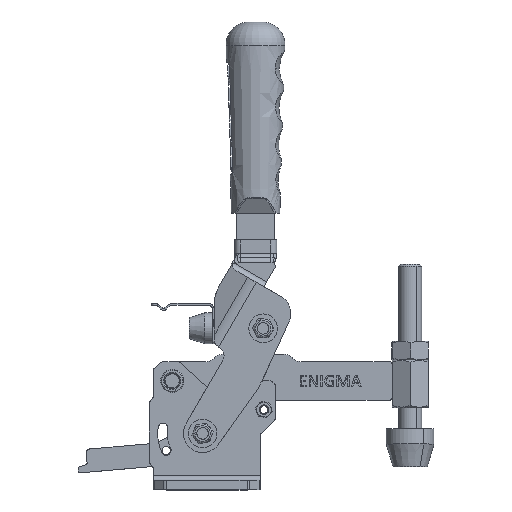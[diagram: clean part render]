
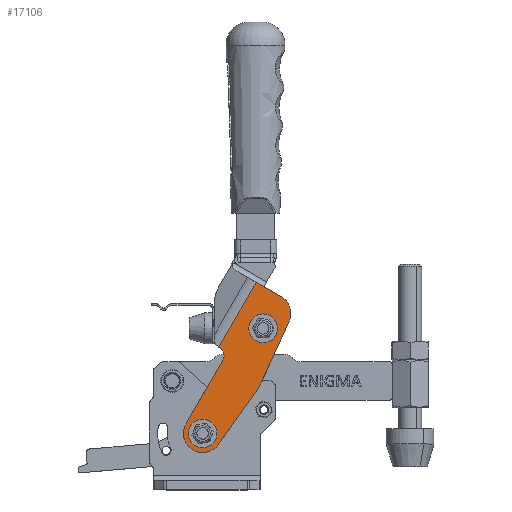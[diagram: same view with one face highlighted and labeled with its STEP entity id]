
A CAD part, top view. The second image highlights one B-rep face of the part: STEP entity #17106.
In plain terms, the highlighted planar face has unit normal (0, 0, 1) as drawn and (0, 0, -1) by its records, which use the part's own axes.
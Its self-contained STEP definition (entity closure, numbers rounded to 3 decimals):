
#206 = VERTEX_POINT ( 'NONE', #37754 ) ;
#1126 = FACE_BOUND ( 'NONE', #26345, .T. ) ;
#2273 = CIRCLE ( 'NONE', #28304, 10. ) ;
#4088 = CIRCLE ( 'NONE', #14470, 40. ) ;
#4246 = LINE ( 'NONE', #43302, #4343 ) ;
#4343 = VECTOR ( 'NONE', #32820, 1000. ) ;
#4828 = CARTESIAN_POINT ( 'NONE',  ( 10., 38.5, -17. ) ) ;
#6219 = DIRECTION ( 'NONE',  ( 1., 0., 0. ) ) ;
#7342 = EDGE_CURVE ( 'NONE', #15074, #24245, #27229, .T. ) ;
#7623 = FACE_OUTER_BOUND ( 'NONE', #27318, .T. ) ;
#7691 = VERTEX_POINT ( 'NONE', #38233 ) ;
#8193 = CARTESIAN_POINT ( 'NONE',  ( 10., 0., -17. ) ) ;
#8367 = EDGE_LOOP ( 'NONE', ( #18009, #38241 ) ) ;
#9907 = DIRECTION ( 'NONE',  ( 1., 0., 0. ) ) ;
#9921 = DIRECTION ( 'NONE',  ( 0., 0., 1. ) ) ;
#9976 = VERTEX_POINT ( 'NONE', #8193 ) ;
#10436 = CIRCLE ( 'NONE', #33480, 7.5 ) ;
#10504 = AXIS2_PLACEMENT_3D ( 'NONE', #32511, #21806, #11549 ) ;
#10878 = FACE_BOUND ( 'NONE', #8367, .T. ) ;
#11001 = EDGE_CURVE ( 'NONE', #33330, #21533, #28861, .T. ) ;
#11008 = ORIENTED_EDGE ( 'NONE', *, *, #16267, .F. ) ;
#11195 = VERTEX_POINT ( 'NONE', #43732 ) ;
#11549 = DIRECTION ( 'NONE',  ( 1., 0., 0. ) ) ;
#11808 = VERTEX_POINT ( 'NONE', #22845 ) ;
#11876 = ORIENTED_EDGE ( 'NONE', *, *, #32644, .F. ) ;
#12310 = DIRECTION ( 'NONE',  ( 1., 0., 0. ) ) ;
#13270 = DIRECTION ( 'NONE',  ( 1., 0., 0. ) ) ;
#13379 = DIRECTION ( 'NONE',  ( 1., 0., 0. ) ) ;
#14209 = EDGE_CURVE ( 'NONE', #7691, #11195, #10436, .T. ) ;
#14396 = EDGE_CURVE ( 'NONE', #21533, #33330, #32033, .T. ) ;
#14453 = LINE ( 'NONE', #35879, #22835 ) ;
#14470 = AXIS2_PLACEMENT_3D ( 'NONE', #19910, #9921, #6219 ) ;
#14661 = CIRCLE ( 'NONE', #30251, 5. ) ;
#15074 = VERTEX_POINT ( 'NONE', #43503 ) ;
#15237 = VECTOR ( 'NONE', #23711, 1000. ) ;
#15523 = VERTEX_POINT ( 'NONE', #32566 ) ;
#15735 = DIRECTION ( 'NONE',  ( 0.095, -0.995, 0. ) ) ;
#16026 = LINE ( 'NONE', #36759, #35274 ) ;
#16162 = VERTEX_POINT ( 'NONE', #4828 ) ;
#16267 = EDGE_CURVE ( 'NONE', #20295, #15523, #2273, .T. ) ;
#16855 = DIRECTION ( 'NONE',  ( 0., 0., 1. ) ) ;
#16870 = VECTOR ( 'NONE', #15735, 1000. ) ;
#17106 = ADVANCED_FACE ( 'NONE', ( #1126, #7623, #10878 ), #25111, .F. ) ;
#17324 = CARTESIAN_POINT ( 'NONE',  ( 0., 63.5, -17. ) ) ;
#17711 = CARTESIAN_POINT ( 'NONE',  ( 7.5, 0., -17. ) ) ;
#18009 = ORIENTED_EDGE ( 'NONE', *, *, #11001, .T. ) ;
#18226 = VERTEX_POINT ( 'NONE', #22826 ) ;
#18586 = ORIENTED_EDGE ( 'NONE', *, *, #45049, .T. ) ;
#19910 = CARTESIAN_POINT ( 'NONE',  ( 26.681, 36.25, -17. ) ) ;
#20295 = VERTEX_POINT ( 'NONE', #30097 ) ;
#20599 = DIRECTION ( 'NONE',  ( 0., 0., 1. ) ) ;
#21533 = VERTEX_POINT ( 'NONE', #17711 ) ;
#21806 = DIRECTION ( 'NONE',  ( 0., 0., 1. ) ) ;
#22307 = CARTESIAN_POINT ( 'NONE',  ( 15.179, 43.5, -17. ) ) ;
#22813 = DIRECTION ( 'NONE',  ( 1., 0., 0. ) ) ;
#22826 = CARTESIAN_POINT ( 'NONE',  ( -9.955, -0.949, -17. ) ) ;
#22835 = VECTOR ( 'NONE', #39590, 1000. ) ;
#22845 = CARTESIAN_POINT ( 'NONE',  ( 15., 43.5, -17. ) ) ;
#23711 = DIRECTION ( 'NONE',  ( 0., -1., 0. ) ) ;
#24245 = VERTEX_POINT ( 'NONE', #22307 ) ;
#24684 = DIRECTION ( 'NONE',  ( -1., 0., 0. ) ) ;
#25111 = PLANE ( 'NONE',  #10504 ) ;
#25372 = CARTESIAN_POINT ( 'NONE',  ( -13.138, 32.455, -17. ) ) ;
#25478 = EDGE_CURVE ( 'NONE', #11195, #7691, #41605, .T. ) ;
#25659 = ORIENTED_EDGE ( 'NONE', *, *, #32193, .F. ) ;
#26336 = DIRECTION ( 'NONE',  ( 0., 1., 0. ) ) ;
#26345 = EDGE_LOOP ( 'NONE', ( #34820, #38164 ) ) ;
#26669 = AXIS2_PLACEMENT_3D ( 'NONE', #43521, #29803, #12310 ) ;
#27229 = LINE ( 'NONE', #41387, #15237 ) ;
#27318 = EDGE_LOOP ( 'NONE', ( #31883, #32563, #11876, #37437, #11008, #18586, #40000, #40182, #41954, #25659 ) ) ;
#27967 = DIRECTION ( 'NONE',  ( 0., 0., 1. ) ) ;
#27973 = DIRECTION ( 'NONE',  ( 0., 0., 1. ) ) ;
#28236 = EDGE_CURVE ( 'NONE', #24245, #11808, #45141, .T. ) ;
#28304 = AXIS2_PLACEMENT_3D ( 'NONE', #34343, #16855, #13379 ) ;
#28733 = DIRECTION ( 'NONE',  ( 1., 0., 0. ) ) ;
#28861 = CIRCLE ( 'NONE', #42952, 7.5 ) ;
#29736 = LINE ( 'NONE', #44131, #16870 ) ;
#29803 = DIRECTION ( 'NONE',  ( 0., 0., 1. ) ) ;
#30042 = DIRECTION ( 'NONE',  ( 0., 0., 1. ) ) ;
#30097 = CARTESIAN_POINT ( 'NONE',  ( 0., 82.5, -17. ) ) ;
#30251 = AXIS2_PLACEMENT_3D ( 'NONE', #38705, #31965, #28733 ) ;
#31095 = CIRCLE ( 'NONE', #26669, 10. ) ;
#31883 = ORIENTED_EDGE ( 'NONE', *, *, #45017, .F. ) ;
#31965 = DIRECTION ( 'NONE',  ( 0., 0., 1. ) ) ;
#32033 = CIRCLE ( 'NONE', #44636, 7.5 ) ;
#32193 = EDGE_CURVE ( 'NONE', #9976, #16162, #16026, .T. ) ;
#32511 = CARTESIAN_POINT ( 'NONE',  ( 0., 0., -17. ) ) ;
#32563 = ORIENTED_EDGE ( 'NONE', *, *, #36069, .F. ) ;
#32566 = CARTESIAN_POINT ( 'NONE',  ( -9.955, 73.449, -17. ) ) ;
#32644 = EDGE_CURVE ( 'NONE', #206, #33549, #4088, .T. ) ;
#32820 = DIRECTION ( 'NONE',  ( 1., 0., 0. ) ) ;
#33330 = VERTEX_POINT ( 'NONE', #43763 ) ;
#33480 = AXIS2_PLACEMENT_3D ( 'NONE', #44914, #30042, #22813 ) ;
#33549 = VERTEX_POINT ( 'NONE', #25372 ) ;
#34343 = CARTESIAN_POINT ( 'NONE',  ( 0., 72.5, -17. ) ) ;
#34820 = ORIENTED_EDGE ( 'NONE', *, *, #14209, .T. ) ;
#35274 = VECTOR ( 'NONE', #26336, 1000. ) ;
#35381 = CARTESIAN_POINT ( 'NONE',  ( 0., 0., -17. ) ) ;
#35879 = CARTESIAN_POINT ( 'NONE',  ( -9.955, 73.449, -17. ) ) ;
#36069 = EDGE_CURVE ( 'NONE', #33549, #18226, #29736, .T. ) ;
#36759 = CARTESIAN_POINT ( 'NONE',  ( 10., 0., -17. ) ) ;
#37437 = ORIENTED_EDGE ( 'NONE', *, *, #43530, .F. ) ;
#37754 = CARTESIAN_POINT ( 'NONE',  ( -13.138, 40.045, -17. ) ) ;
#38164 = ORIENTED_EDGE ( 'NONE', *, *, #25478, .T. ) ;
#38233 = CARTESIAN_POINT ( 'NONE',  ( -7.5, 63.5, -17. ) ) ;
#38241 = ORIENTED_EDGE ( 'NONE', *, *, #14396, .T. ) ;
#38624 = CARTESIAN_POINT ( 'NONE',  ( 0., 0., -17. ) ) ;
#38705 = CARTESIAN_POINT ( 'NONE',  ( 15., 38.5, -17. ) ) ;
#38787 = VECTOR ( 'NONE', #24684, 1000. ) ;
#39590 = DIRECTION ( 'NONE',  ( -0.095, -0.995, 0. ) ) ;
#40000 = ORIENTED_EDGE ( 'NONE', *, *, #7342, .T. ) ;
#40182 = ORIENTED_EDGE ( 'NONE', *, *, #28236, .T. ) ;
#41387 = CARTESIAN_POINT ( 'NONE',  ( 15.179, 0., -17. ) ) ;
#41605 = CIRCLE ( 'NONE', #43111, 7.5 ) ;
#41876 = CARTESIAN_POINT ( 'NONE',  ( 18., 43.5, -17. ) ) ;
#41887 = DIRECTION ( 'NONE',  ( 1., 0., 0. ) ) ;
#41954 = ORIENTED_EDGE ( 'NONE', *, *, #43797, .T. ) ;
#42952 = AXIS2_PLACEMENT_3D ( 'NONE', #35381, #27973, #13270 ) ;
#43111 = AXIS2_PLACEMENT_3D ( 'NONE', #17324, #20599, #9907 ) ;
#43302 = CARTESIAN_POINT ( 'NONE',  ( 0., 82.5, -17. ) ) ;
#43503 = CARTESIAN_POINT ( 'NONE',  ( 15.179, 82.5, -17. ) ) ;
#43521 = CARTESIAN_POINT ( 'NONE',  ( 0., 0., -17. ) ) ;
#43530 = EDGE_CURVE ( 'NONE', #15523, #206, #14453, .T. ) ;
#43732 = CARTESIAN_POINT ( 'NONE',  ( 7.5, 63.5, -17. ) ) ;
#43763 = CARTESIAN_POINT ( 'NONE',  ( -7.5, 0., -17. ) ) ;
#43797 = EDGE_CURVE ( 'NONE', #11808, #16162, #14661, .T. ) ;
#44131 = CARTESIAN_POINT ( 'NONE',  ( -13.138, 32.455, -17. ) ) ;
#44636 = AXIS2_PLACEMENT_3D ( 'NONE', #38624, #27967, #41887 ) ;
#44914 = CARTESIAN_POINT ( 'NONE',  ( 0., 63.5, -17. ) ) ;
#45017 = EDGE_CURVE ( 'NONE', #18226, #9976, #31095, .T. ) ;
#45049 = EDGE_CURVE ( 'NONE', #20295, #15074, #4246, .T. ) ;
#45141 = LINE ( 'NONE', #41876, #38787 ) ;
